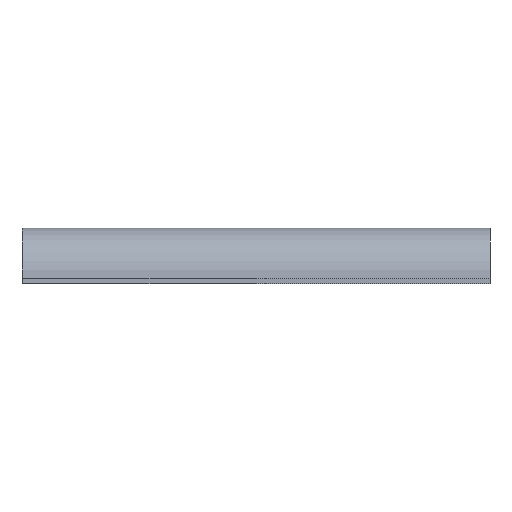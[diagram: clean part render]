
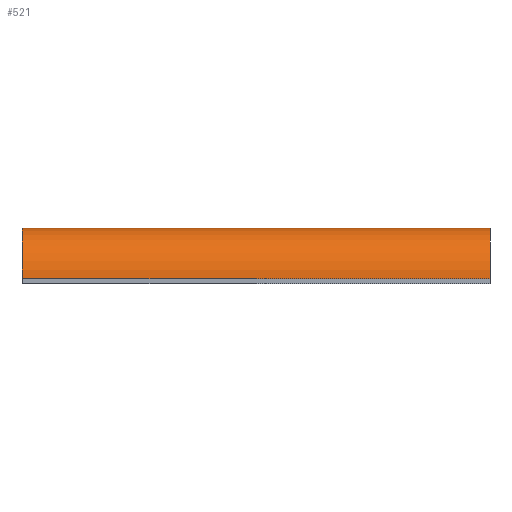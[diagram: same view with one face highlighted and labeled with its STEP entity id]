
A CAD part, front view. The second image highlights one B-rep face of the part: STEP entity #521.
In plain terms, the highlighted cylindrical face has radius 5 mm (diameter 10 mm), a partial arc.
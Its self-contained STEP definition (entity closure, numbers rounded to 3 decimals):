
#24 = VERTEX_POINT('',#25);
#25 = CARTESIAN_POINT('',(-23.,-68.,8.5));
#32 = PLANE('',#33);
#33 = AXIS2_PLACEMENT_3D('',#34,#35,#36);
#34 = CARTESIAN_POINT('',(-44.,-68.,-13.5));
#35 = DIRECTION('',(0.,1.,0.));
#36 = DIRECTION('',(0.,-0.,1.));
#44 = PLANE('',#45);
#45 = AXIS2_PLACEMENT_3D('',#46,#47,#48);
#46 = CARTESIAN_POINT('',(-23.,-68.,8.));
#47 = DIRECTION('',(1.,0.,0.));
#48 = DIRECTION('',(0.,0.,1.));
#56 = EDGE_CURVE('',#57,#24,#59,.T.);
#57 = VERTEX_POINT('',#58);
#58 = CARTESIAN_POINT('',(23.,-68.,8.5));
#59 = SURFACE_CURVE('',#60,(#64,#71),.PCURVE_S1.);
#60 = LINE('',#61,#62);
#61 = CARTESIAN_POINT('',(25.,-68.,8.5));
#62 = VECTOR('',#63,1.);
#63 = DIRECTION('',(-1.,-0.,-0.));
#64 = PCURVE('',#32,#65);
#65 = DEFINITIONAL_REPRESENTATION('',(#66),#70);
#66 = LINE('',#67,#68);
#67 = CARTESIAN_POINT('',(22.,69.));
#68 = VECTOR('',#69,1.);
#69 = DIRECTION('',(0.,-1.));
#70 = ( GEOMETRIC_REPRESENTATION_CONTEXT(2) 
PARAMETRIC_REPRESENTATION_CONTEXT() REPRESENTATION_CONTEXT('2D SPACE',''
  ) );
#71 = PCURVE('',#72,#77);
#72 = CYLINDRICAL_SURFACE('',#73,5.);
#73 = AXIS2_PLACEMENT_3D('',#74,#75,#76);
#74 = CARTESIAN_POINT('',(25.,-63.,8.5));
#75 = DIRECTION('',(-1.,-0.,-0.));
#76 = DIRECTION('',(0.,-1.,0.));
#77 = DEFINITIONAL_REPRESENTATION('',(#78),#82);
#78 = LINE('',#79,#80);
#79 = CARTESIAN_POINT('',(0.,0.));
#80 = VECTOR('',#81,1.);
#81 = DIRECTION('',(0.,1.));
#82 = ( GEOMETRIC_REPRESENTATION_CONTEXT(2) 
PARAMETRIC_REPRESENTATION_CONTEXT() REPRESENTATION_CONTEXT('2D SPACE',''
  ) );
#100 = PLANE('',#101);
#101 = AXIS2_PLACEMENT_3D('',#102,#103,#104);
#102 = CARTESIAN_POINT('',(23.,-68.,8.));
#103 = DIRECTION('',(1.,0.,0.));
#104 = DIRECTION('',(0.,0.,1.));
#279 = VERTEX_POINT('',#280);
#280 = CARTESIAN_POINT('',(-23.,-63.,13.5));
#293 = PLANE('',#294);
#294 = AXIS2_PLACEMENT_3D('',#295,#296,#297);
#295 = CARTESIAN_POINT('',(-44.,-68.,13.5));
#296 = DIRECTION('',(0.,0.,1.));
#297 = DIRECTION('',(1.,0.,-0.));
#304 = EDGE_CURVE('',#24,#279,#305,.T.);
#305 = SURFACE_CURVE('',#306,(#311,#322),.PCURVE_S1.);
#306 = CIRCLE('',#307,5.);
#307 = AXIS2_PLACEMENT_3D('',#308,#309,#310);
#308 = CARTESIAN_POINT('',(-23.,-63.,8.5));
#309 = DIRECTION('',(-1.,-0.,0.));
#310 = DIRECTION('',(0.,-1.,0.));
#311 = PCURVE('',#44,#312);
#312 = DEFINITIONAL_REPRESENTATION('',(#313),#321);
#313 = ( BOUNDED_CURVE() B_SPLINE_CURVE(2,(#314,#315,#316,#317,#318,#319
,#320),.UNSPECIFIED.,.T.,.F.) B_SPLINE_CURVE_WITH_KNOTS((1,2,2,2,2,1),(
    -2.094,0.,2.094,4.189,6.283,
8.378),.UNSPECIFIED.) CURVE() GEOMETRIC_REPRESENTATION_ITEM() 
RATIONAL_B_SPLINE_CURVE((1.,0.5,1.,0.5,1.,0.5,1.)) REPRESENTATION_ITEM(
  '') );
#314 = CARTESIAN_POINT('',(0.5,0.));
#315 = CARTESIAN_POINT('',(9.16,0.));
#316 = CARTESIAN_POINT('',(4.83,-7.5));
#317 = CARTESIAN_POINT('',(0.5,-15.));
#318 = CARTESIAN_POINT('',(-3.83,-7.5));
#319 = CARTESIAN_POINT('',(-8.16,0.));
#320 = CARTESIAN_POINT('',(0.5,0.));
#321 = ( GEOMETRIC_REPRESENTATION_CONTEXT(2) 
PARAMETRIC_REPRESENTATION_CONTEXT() REPRESENTATION_CONTEXT('2D SPACE',''
  ) );
#322 = PCURVE('',#72,#323);
#323 = DEFINITIONAL_REPRESENTATION('',(#324),#328);
#324 = LINE('',#325,#326);
#325 = CARTESIAN_POINT('',(0.,48.));
#326 = VECTOR('',#327,1.);
#327 = DIRECTION('',(1.,0.));
#328 = ( GEOMETRIC_REPRESENTATION_CONTEXT(2) 
PARAMETRIC_REPRESENTATION_CONTEXT() REPRESENTATION_CONTEXT('2D SPACE',''
  ) );
#476 = VERTEX_POINT('',#477);
#477 = CARTESIAN_POINT('',(23.,-63.,13.5));
#496 = EDGE_CURVE('',#57,#476,#497,.T.);
#497 = SURFACE_CURVE('',#498,(#503,#514),.PCURVE_S1.);
#498 = CIRCLE('',#499,5.);
#499 = AXIS2_PLACEMENT_3D('',#500,#501,#502);
#500 = CARTESIAN_POINT('',(23.,-63.,8.5));
#501 = DIRECTION('',(-1.,-0.,0.));
#502 = DIRECTION('',(0.,-1.,0.));
#503 = PCURVE('',#100,#504);
#504 = DEFINITIONAL_REPRESENTATION('',(#505),#513);
#505 = ( BOUNDED_CURVE() B_SPLINE_CURVE(2,(#506,#507,#508,#509,#510,#511
,#512),.UNSPECIFIED.,.T.,.F.) B_SPLINE_CURVE_WITH_KNOTS((1,2,2,2,2,1),(
    -2.094,0.,2.094,4.189,6.283,
8.378),.UNSPECIFIED.) CURVE() GEOMETRIC_REPRESENTATION_ITEM() 
RATIONAL_B_SPLINE_CURVE((1.,0.5,1.,0.5,1.,0.5,1.)) REPRESENTATION_ITEM(
  '') );
#506 = CARTESIAN_POINT('',(0.5,0.));
#507 = CARTESIAN_POINT('',(9.16,0.));
#508 = CARTESIAN_POINT('',(4.83,-7.5));
#509 = CARTESIAN_POINT('',(0.5,-15.));
#510 = CARTESIAN_POINT('',(-3.83,-7.5));
#511 = CARTESIAN_POINT('',(-8.16,0.));
#512 = CARTESIAN_POINT('',(0.5,0.));
#513 = ( GEOMETRIC_REPRESENTATION_CONTEXT(2) 
PARAMETRIC_REPRESENTATION_CONTEXT() REPRESENTATION_CONTEXT('2D SPACE',''
  ) );
#514 = PCURVE('',#72,#515);
#515 = DEFINITIONAL_REPRESENTATION('',(#516),#520);
#516 = LINE('',#517,#518);
#517 = CARTESIAN_POINT('',(0.,2.));
#518 = VECTOR('',#519,1.);
#519 = DIRECTION('',(1.,0.));
#520 = ( GEOMETRIC_REPRESENTATION_CONTEXT(2) 
PARAMETRIC_REPRESENTATION_CONTEXT() REPRESENTATION_CONTEXT('2D SPACE',''
  ) );
#521 = ADVANCED_FACE('',(#522),#72,.T.);
#522 = FACE_BOUND('',#523,.T.);
#523 = EDGE_LOOP('',(#524,#525,#526,#547));
#524 = ORIENTED_EDGE('',*,*,#56,.F.);
#525 = ORIENTED_EDGE('',*,*,#496,.T.);
#526 = ORIENTED_EDGE('',*,*,#527,.T.);
#527 = EDGE_CURVE('',#476,#279,#528,.T.);
#528 = SURFACE_CURVE('',#529,(#533,#540),.PCURVE_S1.);
#529 = LINE('',#530,#531);
#530 = CARTESIAN_POINT('',(25.,-63.,13.5));
#531 = VECTOR('',#532,1.);
#532 = DIRECTION('',(-1.,-0.,-0.));
#533 = PCURVE('',#72,#534);
#534 = DEFINITIONAL_REPRESENTATION('',(#535),#539);
#535 = LINE('',#536,#537);
#536 = CARTESIAN_POINT('',(1.571,0.));
#537 = VECTOR('',#538,1.);
#538 = DIRECTION('',(0.,1.));
#539 = ( GEOMETRIC_REPRESENTATION_CONTEXT(2) 
PARAMETRIC_REPRESENTATION_CONTEXT() REPRESENTATION_CONTEXT('2D SPACE',''
  ) );
#540 = PCURVE('',#293,#541);
#541 = DEFINITIONAL_REPRESENTATION('',(#542),#546);
#542 = LINE('',#543,#544);
#543 = CARTESIAN_POINT('',(69.,5.));
#544 = VECTOR('',#545,1.);
#545 = DIRECTION('',(-1.,0.));
#546 = ( GEOMETRIC_REPRESENTATION_CONTEXT(2) 
PARAMETRIC_REPRESENTATION_CONTEXT() REPRESENTATION_CONTEXT('2D SPACE',''
  ) );
#547 = ORIENTED_EDGE('',*,*,#304,.F.);
